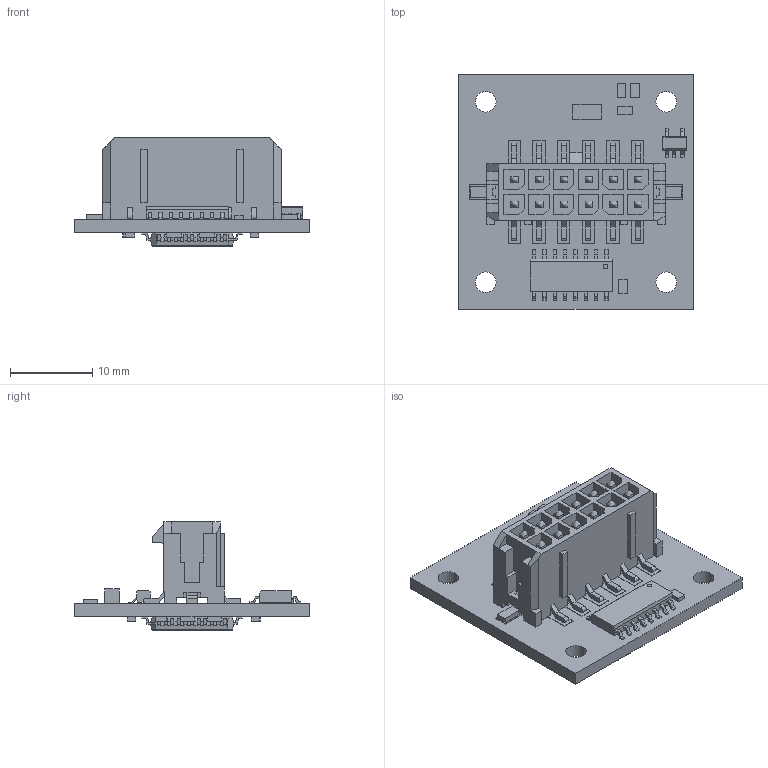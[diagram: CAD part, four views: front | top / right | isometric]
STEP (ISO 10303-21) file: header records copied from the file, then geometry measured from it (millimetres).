
FILE_DESCRIPTION (( 'STEP AP214' ), '1' );
FILE_NAME ('RMB28IC_HR-AM8192_Molex.STEP', '2017-07-14T09:30:09', ( '' ), ( '' ), 'SwSTEP 2.0', 'SolidWorks 2016', '' );
FILE_SCHEMA (( 'AUTOMOTIVE_DESIGN' ));
Length unit declared in the file: millimetre
Products named in the file (1): RMB28IC_HR-AM8192_Molex
Bounding box: 28.5 x 28.5 x 13.15 mm (x, y, z)
Volume: 2587.7 mm3; surface area: 3962 mm2
Topology: 2 solids, 2 shells, 1367 faces, 3871 edges, 2540 vertices
Faces by surface type: plane 1230, bspline 98, cylinder 37, torus 2
Entity records: 50098 total; most frequent: CARTESIAN_POINT 13683, ORIENTED_EDGE 7742, DIRECTION 6293, EDGE_CURVE 3871, VECTOR 3625, LINE 3625, VERTEX_POINT 2540, EDGE_LOOP 1533
